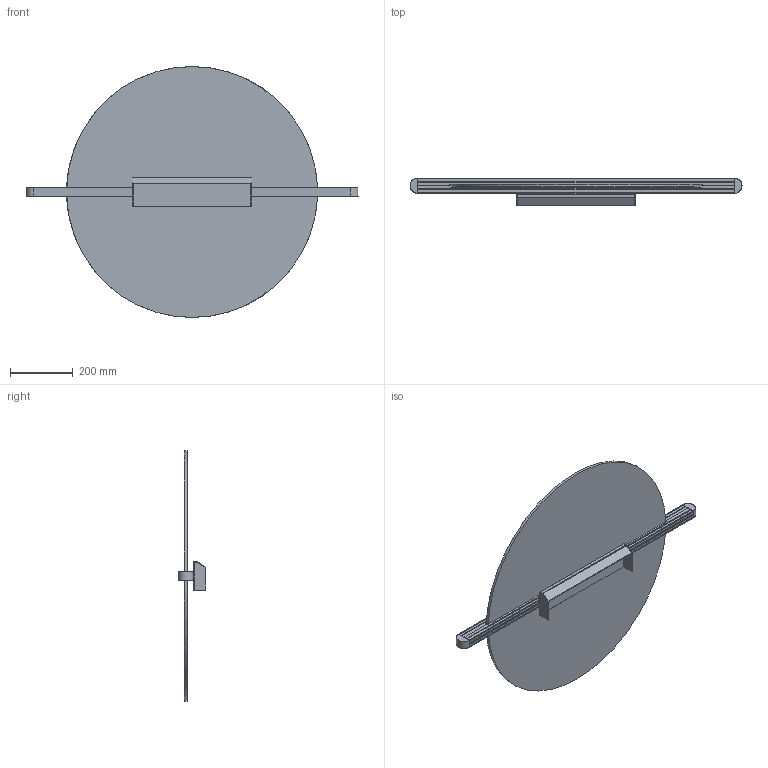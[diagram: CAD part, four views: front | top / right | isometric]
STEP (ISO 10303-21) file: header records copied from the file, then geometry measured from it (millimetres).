
FILE_DESCRIPTION(/* description */ (''),/* implementation_level */ '2;1');
FILE_NAME(/* name */ '1906-3~2',/* time_stamp */ '2021-06-09T15:28:02+02:00',/* author */ (''),/* organization */ (''),/* preprocessor_version */ 'ST-DEVELOPER v16.5',/* originating_system */ '',/* authorisation */ '');
FILE_SCHEMA (('CONFIG_CONTROL_DESIGN'));
Length unit declared in the file: millimetre
Products named in the file (3): Document; PLA.005070; MET.005548
Assembly tree (5 placements, depth 2):
  Document
    PLA.005070  x4
    MET.005548
Bounding box: 1058.45 x 88.5 x 799.99 mm (x, y, z)
Volume: 4732509.4 mm3; surface area: 1679546.9 mm2
Topology: 12 solids, 14 shells, 530 faces, 1528 edges, 1011 vertices
Faces by surface type: plane 278, cylinder 222, bspline 30
Entity records: 15949 total; most frequent: CARTESIAN_POINT 6879, ORIENTED_EDGE 2720, EDGE_CURVE 1376, VERTEX_POINT 915, B_SPLINE_CURVE_WITH_KNOTS 897, EDGE_LOOP 497, ADVANCED_FACE 476, FACE_OUTER_BOUND 476
